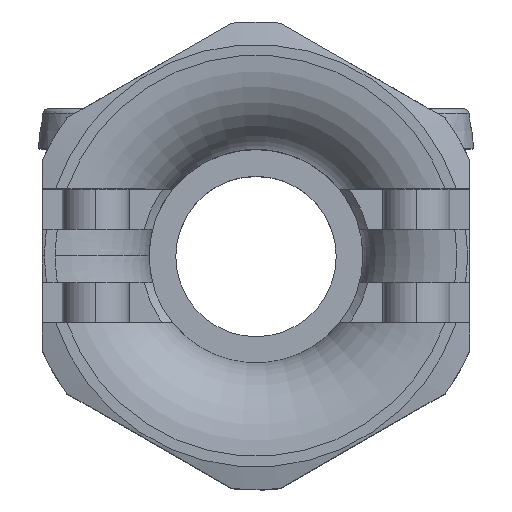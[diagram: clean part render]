
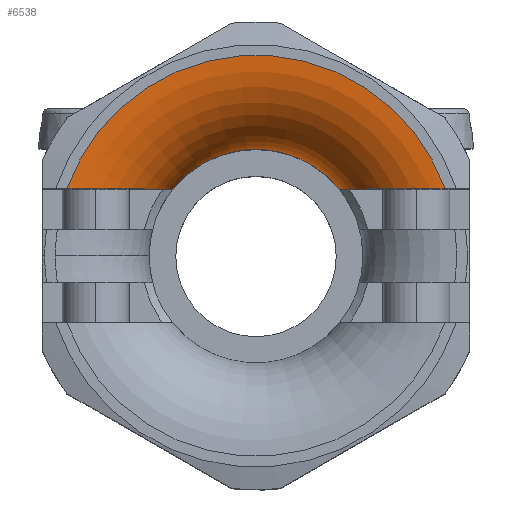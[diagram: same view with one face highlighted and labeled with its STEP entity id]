
A CAD part, top view. The second image highlights one B-rep face of the part: STEP entity #6538.
In plain terms, the highlighted toroidal (fillet/blend) face has major radius 7.5 mm and minor radius 3.5 mm.
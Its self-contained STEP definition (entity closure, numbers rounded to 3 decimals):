
#355 = DIRECTION ( 'NONE',  ( -1., 0., 0. ) ) ;
#356 = DIRECTION ( 'NONE',  ( 0., 0., 1. ) ) ;
#357 = CARTESIAN_POINT ( 'NONE',  ( 0., 0., -3.5 ) ) ;
#358 = AXIS2_PLACEMENT_3D ( 'NONE', #357, #356, #355 ) ;
#359 = CIRCLE ( 'NONE', #358, 4. ) ;
#360 = CARTESIAN_POINT ( 'NONE',  ( 3.122, 2.5, -3.5 ) ) ;
#437 = CARTESIAN_POINT ( 'NONE',  ( -3.122, 2.5, -3.5 ) ) ;
#1124 = CARTESIAN_POINT ( 'NONE',  ( -3.122, 2.5, -3.5 ) ) ;
#1125 = CARTESIAN_POINT ( 'NONE',  ( -3.122, 2.5, -3.258 ) ) ;
#1126 = CARTESIAN_POINT ( 'NONE',  ( -3.155, 2.5, -3.02 ) ) ;
#1127 = CARTESIAN_POINT ( 'NONE',  ( -3.247, 2.5, -2.668 ) ) ;
#1128 = CARTESIAN_POINT ( 'NONE',  ( -3.286, 2.5, -2.551 ) ) ;
#1129 = CARTESIAN_POINT ( 'NONE',  ( -3.376, 2.5, -2.325 ) ) ;
#1130 = CARTESIAN_POINT ( 'NONE',  ( -3.427, 2.5, -2.216 ) ) ;
#1131 = CARTESIAN_POINT ( 'NONE',  ( -3.598, 2.5, -1.896 ) ) ;
#1132 = CARTESIAN_POINT ( 'NONE',  ( -3.735, 2.5, -1.693 ) ) ;
#1133 = CARTESIAN_POINT ( 'NONE',  ( -4.044, 2.5, -1.318 ) ) ;
#1134 = CARTESIAN_POINT ( 'NONE',  ( -4.214, 2.5, -1.148 ) ) ;
#1135 = CARTESIAN_POINT ( 'NONE',  ( -4.582, 2.5, -0.836 ) ) ;
#1136 = CARTESIAN_POINT ( 'NONE',  ( -4.782, 2.5, -0.695 ) ) ;
#1137 = CARTESIAN_POINT ( 'NONE',  ( -5.2, 2.5, -0.45 ) ) ;
#1138 = CARTESIAN_POINT ( 'NONE',  ( -5.418, 2.5, -0.346 ) ) ;
#1139 = CARTESIAN_POINT ( 'NONE',  ( -5.87, 2.5, -0.177 ) ) ;
#1140 = CARTESIAN_POINT ( 'NONE',  ( -6.105, 2.5, -0.111 ) ) ;
#1141 = CARTESIAN_POINT ( 'NONE',  ( -6.584, 2.5, -0.023 ) ) ;
#1146 = CARTESIAN_POINT ( 'NONE',  ( -6.826, 2.5, 0. ) ) ;
#1147 = CARTESIAN_POINT ( 'NONE',  ( -7.071, 2.5, 0. ) ) ;
#1149 = B_SPLINE_CURVE_WITH_KNOTS ( 'NONE', 3,
 ( #1147, #1146, #1141, #1140, #1139, #1138, #1137, #1136, #1135, #1134, #1133, #1132, #1131, #1130, #1129, #1128, #1127, #1126, #1125, #1124 ),
 .UNSPECIFIED., .F., .F.,
 ( 4, 2, 2, 2, 2, 2, 2, 2, 2, 4 ),
 ( 0.022, 0.022, 0.023, 0.024, 0.025, 0.025, 0.026, 0.026, 0.027, 0.028 ),
 .UNSPECIFIED. ) ;
#1150 = CARTESIAN_POINT ( 'NONE',  ( -7.071, 2.5, 0. ) ) ;
#2532 = CARTESIAN_POINT ( 'NONE',  ( 7.071, 2.5, 0. ) ) ;
#2533 = CARTESIAN_POINT ( 'NONE',  ( 6.829, 2.5, 0. ) ) ;
#2534 = CARTESIAN_POINT ( 'NONE',  ( 6.589, 2.5, -0.022 ) ) ;
#2535 = CARTESIAN_POINT ( 'NONE',  ( 6.115, 2.5, -0.109 ) ) ;
#2536 = CARTESIAN_POINT ( 'NONE',  ( 5.878, 2.5, -0.174 ) ) ;
#2537 = CARTESIAN_POINT ( 'NONE',  ( 5.424, 2.5, -0.343 ) ) ;
#2538 = CARTESIAN_POINT ( 'NONE',  ( 5.207, 2.5, -0.447 ) ) ;
#2539 = CARTESIAN_POINT ( 'NONE',  ( 4.789, 2.5, -0.69 ) ) ;
#2540 = CARTESIAN_POINT ( 'NONE',  ( 4.588, 2.5, -0.832 ) ) ;
#2541 = CARTESIAN_POINT ( 'NONE',  ( 4.218, 2.5, -1.144 ) ) ;
#2542 = CARTESIAN_POINT ( 'NONE',  ( 4.047, 2.5, -1.315 ) ) ;
#2543 = CARTESIAN_POINT ( 'NONE',  ( 3.737, 2.5, -1.691 ) ) ;
#2544 = CARTESIAN_POINT ( 'NONE',  ( 3.6, 2.5, -1.893 ) ) ;
#2545 = CARTESIAN_POINT ( 'NONE',  ( 3.372, 2.5, -2.32 ) ) ;
#2546 = CARTESIAN_POINT ( 'NONE',  ( 3.279, 2.5, -2.549 ) ) ;
#2547 = CARTESIAN_POINT ( 'NONE',  ( 3.155, 2.5, -3.015 ) ) ;
#2548 = CARTESIAN_POINT ( 'NONE',  ( 3.122, 2.5, -3.255 ) ) ;
#2549 = CARTESIAN_POINT ( 'NONE',  ( 3.122, 2.5, -3.5 ) ) ;
#2586 = B_SPLINE_CURVE_WITH_KNOTS ( 'NONE', 3,
 ( #2549, #2548, #2547, #2546, #2545, #2544, #2543, #2542, #2541, #2540, #2539, #2538, #2537, #2536, #2535, #2534, #2533, #2532 ),
 .UNSPECIFIED., .F., .F.,
 ( 4, 2, 2, 2, 2, 2, 2, 2, 4 ),
 ( 0.023, 0.023, 0.024, 0.025, 0.026, 0.026, 0.027, 0.028, 0.028 ),
 .UNSPECIFIED. ) ;
#2765 = CARTESIAN_POINT ( 'NONE',  ( 7.071, 2.5, 0. ) ) ;
#3105 = DIRECTION ( 'NONE',  ( -1., 0., 0. ) ) ;
#3106 = DIRECTION ( 'NONE',  ( 0., 0., -1. ) ) ;
#3107 = CARTESIAN_POINT ( 'NONE',  ( 0., 0., -3.5 ) ) ;
#3108 = AXIS2_PLACEMENT_3D ( 'NONE', #3107, #3106, #3105 ) ;
#3109 = TOROIDAL_SURFACE ( 'NONE', #3108, 7.5, 3.5 ) ;
#3110 = FACE_OUTER_BOUND ( 'NONE', #6539, .T. ) ;
#3111 = DIRECTION ( 'NONE',  ( -1., 0., 0. ) ) ;
#3112 = DIRECTION ( 'NONE',  ( 0., 0., -1. ) ) ;
#3113 = CARTESIAN_POINT ( 'NONE',  ( 0., 0., 0. ) ) ;
#3114 = AXIS2_PLACEMENT_3D ( 'NONE', #3113, #3112, #3111 ) ;
#3115 = CIRCLE ( 'NONE', #3114, 7.5 ) ;
#5263 = VERTEX_POINT ( 'NONE', #437 ) ;
#5306 = VERTEX_POINT ( 'NONE', #360 ) ;
#5308 = EDGE_CURVE ( 'NONE', #5306, #5263, #359, .T. ) ;
#5519 = EDGE_CURVE ( 'NONE', #5520, #5263, #1149, .T. ) ;
#5520 = VERTEX_POINT ( 'NONE', #1150 ) ;
#6317 = EDGE_CURVE ( 'NONE', #5306, #6441, #2586, .T. ) ;
#6441 = VERTEX_POINT ( 'NONE', #2765 ) ;
#6537 = EDGE_CURVE ( 'NONE', #5520, #6441, #3115, .T. ) ;
#6538 = ADVANCED_FACE ( 'NONE', ( #3110 ), #3109, .T. ) ;
#6539 = EDGE_LOOP ( 'NONE', ( #6540, #6541, #6542, #6543 ) ) ;
#6540 = ORIENTED_EDGE ( 'NONE', *, *, #6537, .F. ) ;
#6541 = ORIENTED_EDGE ( 'NONE', *, *, #5519, .T. ) ;
#6542 = ORIENTED_EDGE ( 'NONE', *, *, #5308, .F. ) ;
#6543 = ORIENTED_EDGE ( 'NONE', *, *, #6317, .T. ) ;
